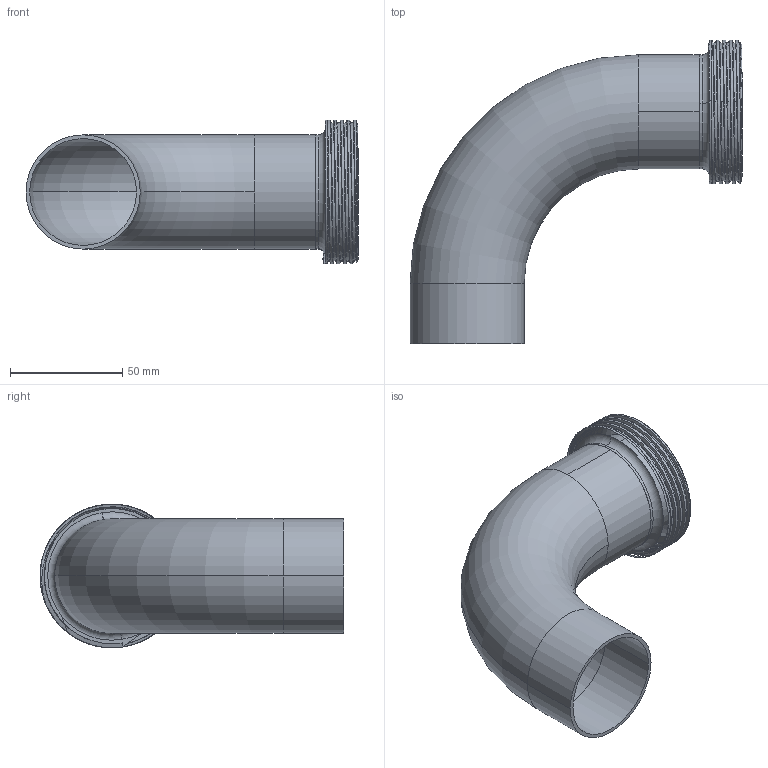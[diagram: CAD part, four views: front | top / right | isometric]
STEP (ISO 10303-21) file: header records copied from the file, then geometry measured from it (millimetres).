
FILE_DESCRIPTION (( 'STEP AP203' ), '1' );
FILE_NAME ('E2T2.0.STEP', '2018-05-02T13:38:44', ( 'vneprd' ), ( 'Microsoft' ), 'SwSTEP 2.0', 'SolidWorks 2014', '' );
FILE_SCHEMA (( 'CONFIG_CONTROL_DESIGN' ));
Length unit declared in the file: inch
Products named in the file (3): 15TR2.0; E2S2.0; E2T2.0
Assembly tree (2 placements, depth 2):
  E2T2.0
    E2S2.0
    15TR2.0
Bounding box: 147.68 x 135.13 x 63.91 mm (x, y, z)
Volume: 63580 mm3; surface area: 64353.6 mm2
Topology: 2 solids, 2 shells, 49 faces, 118 edges, 76 vertices
Faces by surface type: cylinder 24, plane 8, bspline 7, torus 6, cone 4
Entity records: 4487 total; most frequent: CARTESIAN_POINT 3105, ORIENTED_EDGE 236, DIRECTION 222, EDGE_CURVE 118, AXIS2_PLACEMENT_3D 94, VERTEX_POINT 76, EDGE_LOOP 56, FACE_OUTER_BOUND 49
